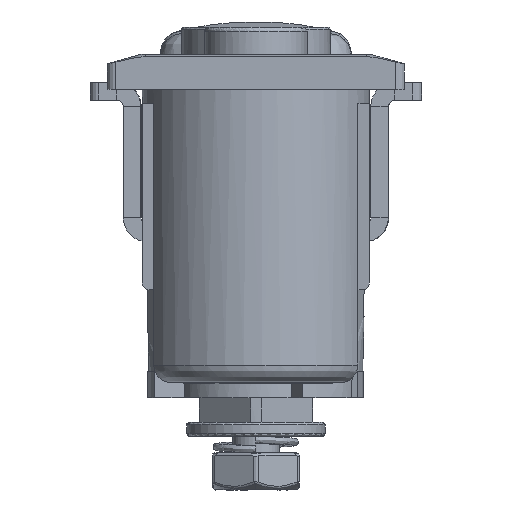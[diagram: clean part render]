
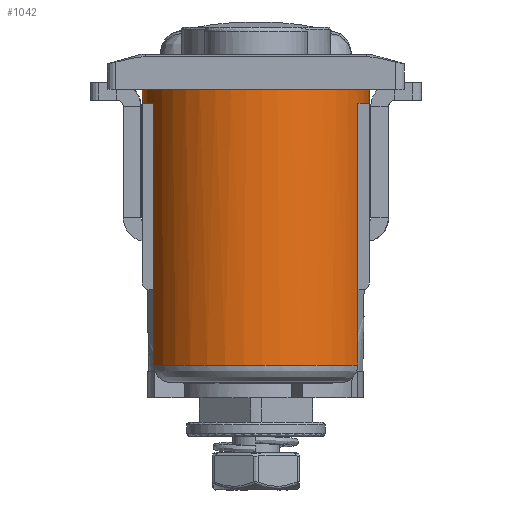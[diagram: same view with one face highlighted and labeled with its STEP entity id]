
A CAD part, front view. The second image highlights one B-rep face of the part: STEP entity #1042.
In plain terms, the highlighted cylindrical face has radius 13 mm (diameter 26 mm), a partial arc.
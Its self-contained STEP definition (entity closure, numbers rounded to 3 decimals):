
#1042=ADVANCED_FACE('',(#2663),#26030,.T.);
#2663=FACE_OUTER_BOUND('',#4350,.T.);
#4350=EDGE_LOOP('',(#9157,#9158,#9159,#9160,#9161,#9162,#9163,#9164));
#9157=ORIENTED_EDGE('',*,*,#16040,.T.);
#9158=ORIENTED_EDGE('',*,*,#16041,.T.);
#9159=ORIENTED_EDGE('',*,*,#16042,.T.);
#9160=ORIENTED_EDGE('',*,*,#16043,.T.);
#9161=ORIENTED_EDGE('',*,*,#16044,.T.);
#9162=ORIENTED_EDGE('',*,*,#16045,.T.);
#9163=ORIENTED_EDGE('',*,*,#16046,.T.);
#9164=ORIENTED_EDGE('',*,*,#16047,.T.);
#16040=EDGE_CURVE('',#23938,#23940,#19145,.T.);
#16041=EDGE_CURVE('',#23940,#24454,#20894,.T.);
#16042=EDGE_CURVE('',#24454,#24455,#19146,.T.);
#16043=EDGE_CURVE('',#24455,#24456,#20895,.T.);
#16044=EDGE_CURVE('',#24456,#24457,#19147,.T.);
#16045=EDGE_CURVE('',#24457,#24458,#20896,.T.);
#16046=EDGE_CURVE('',#24458,#24459,#19148,.T.);
#16047=EDGE_CURVE('',#24459,#23938,#20897,.T.);
#19145=(
BOUNDED_CURVE()
B_SPLINE_CURVE(2,(#73735,#73736,#73737,#73738,#73739),.UNSPECIFIED.,.F.,
 .F.)
B_SPLINE_CURVE_WITH_KNOTS((3,2,3),(0.,20.42,40.841),
 .UNSPECIFIED.)
CURVE()
GEOMETRIC_REPRESENTATION_ITEM()
RATIONAL_B_SPLINE_CURVE((1.,0.707,1.,0.707,1.))
REPRESENTATION_ITEM('')
);
#19146=(
BOUNDED_CURVE()
B_SPLINE_CURVE(2,(#73742,#73743,#73744),.UNSPECIFIED.,.F.,.F.)
B_SPLINE_CURVE_WITH_KNOTS((3,3),(0.,5.92),.UNSPECIFIED.)
CURVE()
GEOMETRIC_REPRESENTATION_ITEM()
RATIONAL_B_SPLINE_CURVE((1.,0.974,1.))
REPRESENTATION_ITEM('')
);
#19147=(
BOUNDED_CURVE()
B_SPLINE_CURVE(2,(#73747,#73748,#73749,#73750,#73751),.UNSPECIFIED.,.F.,
 .F.)
B_SPLINE_CURVE_WITH_KNOTS((3,2,3),(0.,14.5,29.),
 .UNSPECIFIED.)
CURVE()
GEOMETRIC_REPRESENTATION_ITEM()
RATIONAL_B_SPLINE_CURVE((1.,0.848,1.,0.848,1.))
REPRESENTATION_ITEM('')
);
#19148=(
BOUNDED_CURVE()
B_SPLINE_CURVE(2,(#73754,#73755,#73756),.UNSPECIFIED.,.F.,.F.)
B_SPLINE_CURVE_WITH_KNOTS((3,3),(0.,5.92),.UNSPECIFIED.)
CURVE()
GEOMETRIC_REPRESENTATION_ITEM()
RATIONAL_B_SPLINE_CURVE((1.,0.974,1.))
REPRESENTATION_ITEM('')
);
#20894=B_SPLINE_CURVE_WITH_KNOTS('',1,(#73740,#73741),.UNSPECIFIED.,.F.,
 .F.,(2,2),(0.,2.6),.UNSPECIFIED.);
#20895=B_SPLINE_CURVE_WITH_KNOTS('',1,(#73745,#73746),.UNSPECIFIED.,.F.,
 .F.,(2,2),(0.,29.95),.UNSPECIFIED.);
#20896=B_SPLINE_CURVE_WITH_KNOTS('',1,(#73752,#73753),.UNSPECIFIED.,.F.,
 .F.,(2,2),(0.,29.95),.UNSPECIFIED.);
#20897=B_SPLINE_CURVE_WITH_KNOTS('',1,(#73757,#73758),.UNSPECIFIED.,.F.,
 .F.,(2,2),(0.,2.6),.UNSPECIFIED.);
#23938=VERTEX_POINT('',#69797);
#23940=VERTEX_POINT('',#69799);
#24454=VERTEX_POINT('',#70313);
#24455=VERTEX_POINT('',#70314);
#24456=VERTEX_POINT('',#70315);
#24457=VERTEX_POINT('',#70316);
#24458=VERTEX_POINT('',#70317);
#24459=VERTEX_POINT('',#70318);
#26030=CYLINDRICAL_SURFACE('',#27983,13.);
#27983=AXIS2_PLACEMENT_3D('',#51065,#29162,$);
#29162=DIRECTION('',(0.,0.,-1.));
#51065=CARTESIAN_POINT('',(0.,-53.7,-16.275));
#69797=CARTESIAN_POINT('',(13.,-53.7,0.));
#69799=CARTESIAN_POINT('',(-13.,-53.7,0.));
#70313=CARTESIAN_POINT('',(-13.,-53.7,-2.6));
#70314=CARTESIAN_POINT('',(-11.675,-59.418,-2.6));
#70315=CARTESIAN_POINT('',(-11.675,-59.418,-32.55));
#70316=CARTESIAN_POINT('',(11.675,-59.418,-32.55));
#70317=CARTESIAN_POINT('',(11.675,-59.418,-2.6));
#70318=CARTESIAN_POINT('',(13.,-53.7,-2.6));
#73735=CARTESIAN_POINT('',(13.,-53.7,0.));
#73736=CARTESIAN_POINT('',(13.,-66.7,0.));
#73737=CARTESIAN_POINT('',(0.,-66.7,0.));
#73738=CARTESIAN_POINT('',(-13.,-66.7,0.));
#73739=CARTESIAN_POINT('',(-13.,-53.7,0.));
#73740=CARTESIAN_POINT('',(-13.,-53.7,0.));
#73741=CARTESIAN_POINT('',(-13.,-53.7,-2.6));
#73742=CARTESIAN_POINT('',(-13.,-53.7,-2.6));
#73743=CARTESIAN_POINT('',(-13.,-56.712,-2.6));
#73744=CARTESIAN_POINT('',(-11.675,-59.418,-2.6));
#73745=CARTESIAN_POINT('',(-11.675,-59.418,-2.6));
#73746=CARTESIAN_POINT('',(-11.675,-59.418,-32.55));
#73747=CARTESIAN_POINT('',(-11.675,-59.418,-32.55));
#73748=CARTESIAN_POINT('',(-8.109,-66.7,-32.55));
#73749=CARTESIAN_POINT('',(0.,-66.7,-32.55));
#73750=CARTESIAN_POINT('',(8.109,-66.7,-32.55));
#73751=CARTESIAN_POINT('',(11.675,-59.418,-32.55));
#73752=CARTESIAN_POINT('',(11.675,-59.418,-32.55));
#73753=CARTESIAN_POINT('',(11.675,-59.418,-2.6));
#73754=CARTESIAN_POINT('',(11.675,-59.418,-2.6));
#73755=CARTESIAN_POINT('',(13.,-56.712,-2.6));
#73756=CARTESIAN_POINT('',(13.,-53.7,-2.6));
#73757=CARTESIAN_POINT('',(13.,-53.7,-2.6));
#73758=CARTESIAN_POINT('',(13.,-53.7,0.));
